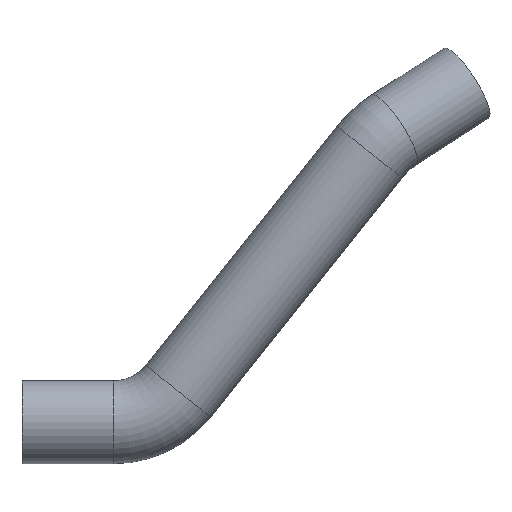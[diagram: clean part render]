
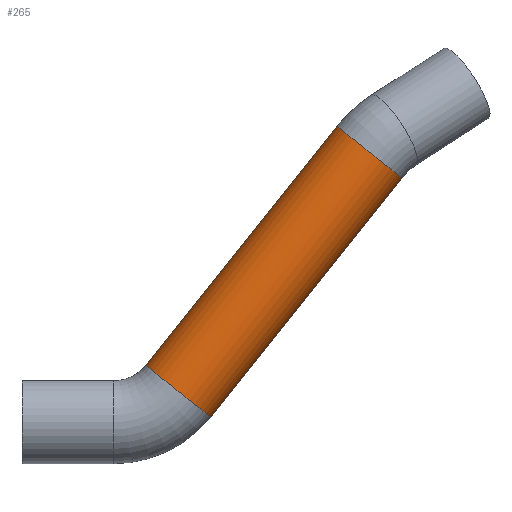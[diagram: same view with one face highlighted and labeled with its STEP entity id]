
A CAD part, top view. The second image highlights one B-rep face of the part: STEP entity #265.
In plain terms, the highlighted cylindrical face has radius 25 mm (diameter 50 mm), a full revolution.
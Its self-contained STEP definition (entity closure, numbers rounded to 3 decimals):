
#169=VERTEX_POINT('',#619);
#171=VERTEX_POINT('',#625);
#181=EDGE_CURVE('',#169,#169,#306,.T.);
#183=EDGE_CURVE('',#171,#171,#308,.T.);
#197=ORIENTED_EDGE('',*,*,#181,.T.);
#198=ORIENTED_EDGE('',*,*,#183,.F.);
#221=EDGE_LOOP('',(#197));
#222=EDGE_LOOP('',(#198));
#245=FACE_BOUND('',#221,.T.);
#246=FACE_BOUND('',#222,.T.);
#265=ADVANCED_FACE('',(#245,#246),#275,.T.);
#275=CYLINDRICAL_SURFACE('',#482,25.);
#306=CIRCLE('',#479,25.);
#308=CIRCLE('',#483,25.);
#479=AXIS2_PLACEMENT_3D('',#618,#684,#685);
#482=AXIS2_PLACEMENT_3D('',#623,#689,#690);
#483=AXIS2_PLACEMENT_3D('',#624,#691,#692);
#618=CARTESIAN_POINT('',(209.366,162.868,0.));
#619=CARTESIAN_POINT('',(209.366,162.868,-25.));
#623=CARTESIAN_POINT('',(94.089,18.766,0.));
#624=CARTESIAN_POINT('',(94.089,18.766,0.));
#625=CARTESIAN_POINT('',(94.089,18.766,-25.));
#684=DIRECTION('',(-0.625,-0.781,0.));
#685=DIRECTION('',(0.,0.,-25.));
#689=DIRECTION('',(0.625,0.781,0.));
#690=DIRECTION('',(19.522,-15.617,0.));
#691=DIRECTION('',(-0.625,-0.781,0.));
#692=DIRECTION('',(0.,0.,-25.));
